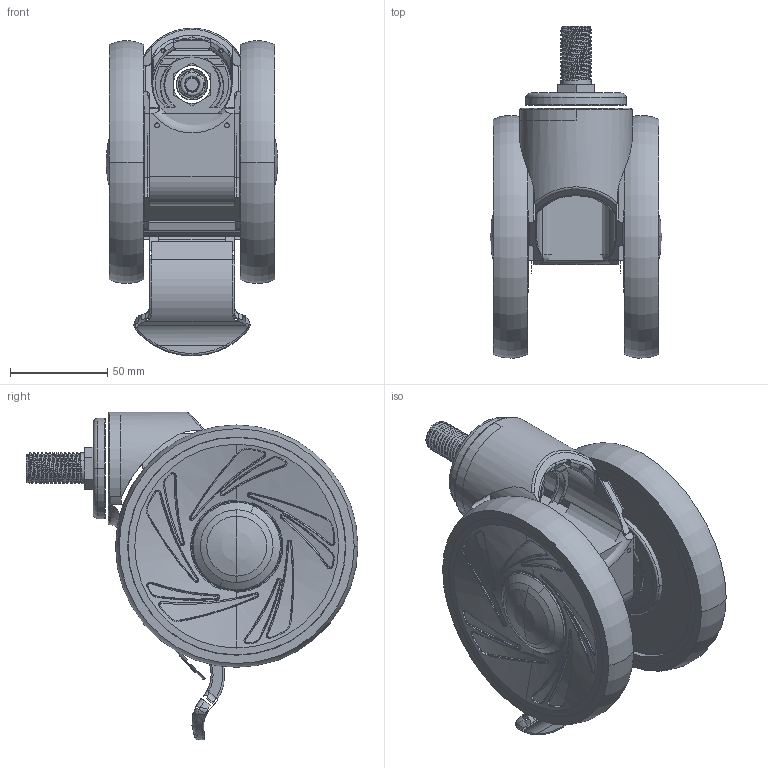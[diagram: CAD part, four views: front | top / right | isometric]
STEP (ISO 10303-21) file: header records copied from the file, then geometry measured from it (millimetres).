
FILE_DESCRIPTION((''),'2;1');
FILE_NAME('PRT0021','2025-08-18T13:26:58',('Administrator'),(''),'CREO PARAMETRIC BY PTC INC, 2022124','CREO PARAMETRIC BY PTC INC, 2022124','');
FILE_SCHEMA(('AUTOMOTIVE_DESIGN { 1 0 10303 214 1 1 1 1 }'));
Length unit declared in the file: millimetre
Products named in the file (1): PRT0021
Bounding box: 88.4 x 170.92 x 168.77 mm (x, y, z)
Surface area: 105403.5 mm2 (no closed solid volume)
Topology: 0 solids, 77 shells, 360 faces, 2159 edges, 1855 vertices
Faces by surface type: bspline 140, cylinder 87, plane 73, torus 37, cone 11, extrusion 8, sphere 4
Entity records: 39127 total; most frequent: CARTESIAN_POINT 22337, ORIENTED_EDGE 2640, DIRECTION 2398, EDGE_CURVE 2155, VERTEX_POINT 1855, AXIS2_PLACEMENT_3D 932, B_SPLINE_CURVE_WITH_KNOTS 930, CIRCLE 709
